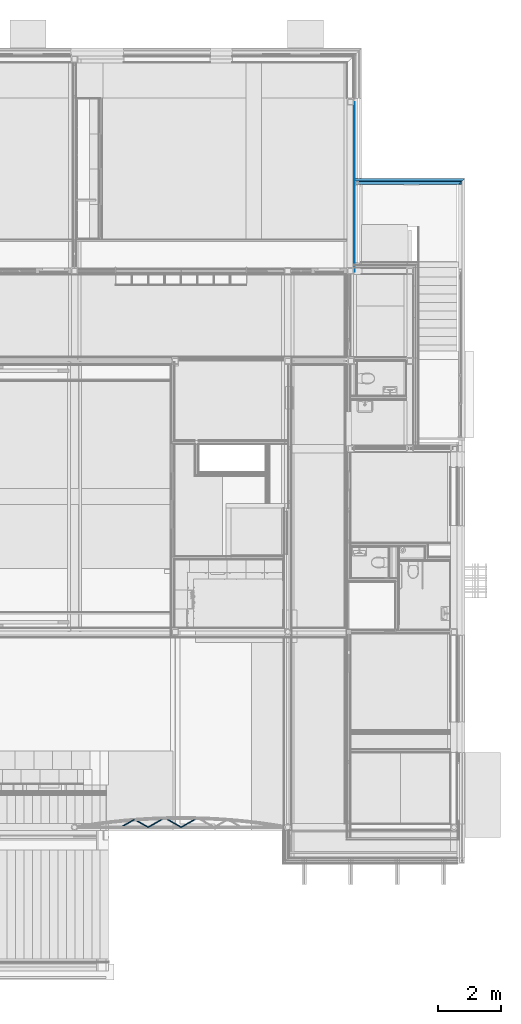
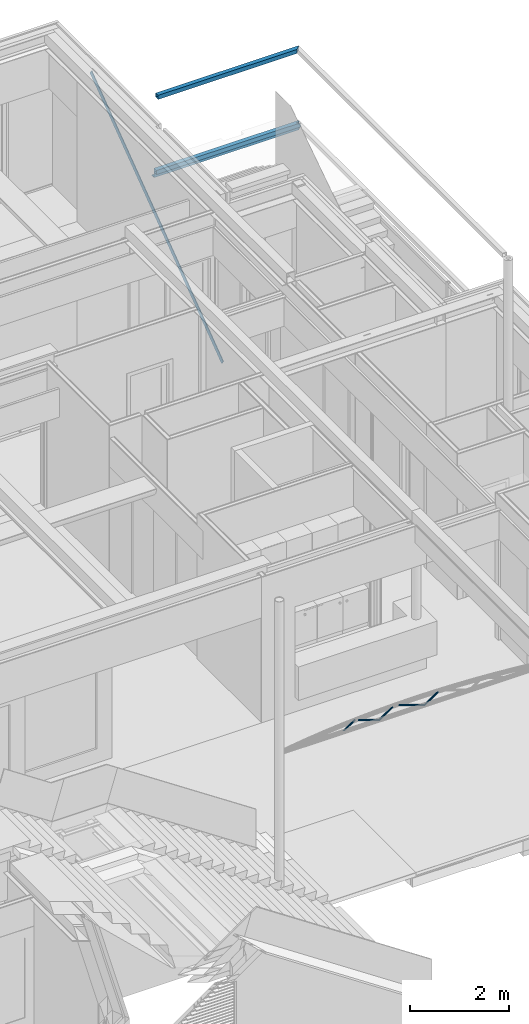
# One storey, part 16 of 165: 9 beams.
"""IFC2X3 building model written with IfcOpenShell, lengths in millimetres."""

from ifc_helpers import new_model, entity, si_unit, converted_unit, derived_unit, money_unit, direction, frame, origin_with_axes, place, context, subcontext, project, spatial, faceted_brep, material, type_object, element, save


model = new_model("IFC2X3")

# Units and contexts
model_context = context("Model", 3, precision=0.01, world=origin_with_axes(), true_north=direction((0.0, 1.0)))
body_context = subcontext(model_context, "Body", "Model", "MODEL_VIEW")
ifc_project = project(units=[si_unit("LENGTHUNIT", "METRE", prefix="MILLI"), si_unit("AREAUNIT", "SQUARE_METRE"), si_unit("VOLUMEUNIT", "CUBIC_METRE"), converted_unit("PLANEANGLEUNIT", "DEGREE", entity("IfcPlaneAngleMeasure", 0.0174532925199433), si_unit("PLANEANGLEUNIT", "RADIAN"), dimensions=[0, 0, 0, 0, 0, 0, 0]), money_unit("EUR"), converted_unit("TIMEUNIT", "Year", entity("IfcTimeMeasure", 31556926.0), si_unit("TIMEUNIT", "SECOND"), dimensions=[0, 0, 1, 0, 0, 0, 0]), si_unit("MASSUNIT", "GRAM", prefix="KILO"), si_unit("THERMODYNAMICTEMPERATUREUNIT", "DEGREE_CELSIUS"), si_unit("LUMINOUSINTENSITYUNIT", "LUMEN"), si_unit("ENERGYUNIT", "JOULE", prefix="MEGA"), derived_unit("THERMALCONDUCTANCEUNIT", [(si_unit("POWERUNIT", "WATT"), 1), (si_unit("LENGTHUNIT", "METRE"), -1), (si_unit("THERMODYNAMICTEMPERATUREUNIT", "KELVIN"), -1)]), derived_unit("SPECIFICHEATCAPACITYUNIT", [(si_unit("ENERGYUNIT", "JOULE"), 1), (si_unit("MASSUNIT", "GRAM", prefix="KILO"), -1), (si_unit("THERMODYNAMICTEMPERATUREUNIT", "KELVIN"), -1)]), derived_unit("MASSDENSITYUNIT", [(si_unit("MASSUNIT", "GRAM", prefix="KILO"), 1), (si_unit("VOLUMEUNIT", "CUBIC_METRE"), -1)])], contexts=[model_context])

# Site, building, storey
site_placement = place(None, origin_with_axes())
site = spatial("IfcSite", under=ifc_project, at=site_placement, Name="Site", CompositionType="ELEMENT")
building_placement = place(site_placement, origin_with_axes())
building = spatial("IfcBuilding", under=site, at=building_placement, Name="Naam gebouw", CompositionType="ELEMENT")
storey_placement = place(building_placement, origin_with_axes())
storey = spatial("IfcBuildingStorey", under=building, at=storey_placement, Name="Begane grond", CompositionType="ELEMENT", Elevation=0.0)

# Beams
ifc_material_1 = material(Name="Metaal - Staal C")
beam_type_1 = type_object("IfcBeamType", Name="100X100X5 100 x 100", PredefinedType="BEAM")
beam_1_placement = place(storey_placement, frame((26660.00001107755, 25124.97621976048, 2790.000013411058), z_axis=(0.0, 0.0, 1.0), x_axis=(0.0, -1.0, 0.0)))
element("IfcBeam", 1, at=beam_1_placement, inside=storey, type_object=beam_type_1, material=ifc_material_1, Name="h METAAL_Regenwaterafvoer-x", ObjectType="BEAM", context=body_context, shape_type="Brep", body=[
    faceted_brep([(-0.02363582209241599, 3304.999988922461, 49.99999999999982), (-0.02363582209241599, 3309.99998892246, 49.99999999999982), (-0.02363582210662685, 3369.999988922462, 49.99999999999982), (-0.02363582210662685, 3374.999988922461, 49.99999999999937), (-50.00000000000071, 3374.999988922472, 49.99999999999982), (-50.00000000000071, 0.0, 49.99999999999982), (50.00000000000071, 0.0, 49.99999999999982), (50.00000000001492, 3304.999988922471, 49.99999999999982), (3.14909145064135, 3309.99998892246, 44.99999999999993), (3.149091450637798, 3304.999988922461, 44.99999999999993), (3.149091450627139, 3369.999988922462, 44.99999999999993), (3.149091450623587, 3374.999988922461, 44.99999999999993), (44.99999999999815, 3374.999988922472, -44.99999999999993), (45.00000000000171, 3374.999988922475, 37.11782119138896), (50.00000000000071, 3374.999988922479, 40.29054846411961), (50.00000000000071, 3374.999988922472, -49.99999999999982), (-50.00000000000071, 3374.999988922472, -49.99999999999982), (-45.00000000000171, 3374.999988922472, 44.99999999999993), (-45.00000000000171, 3374.999988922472, -44.99999999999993), (-50.00000000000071, 0.0, -49.99999999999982), (50.00000000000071, 0.0, -49.99999999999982), (-45.00000000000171, 0.0, 44.99999999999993), (45.00000000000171, 0.0, 44.99999999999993), (45.00000000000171, 0.0, -44.99999999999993), (-45.00000000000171, 0.0, -44.99999999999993), (50.00000000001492, 3304.999988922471, 40.29054846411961), (45.00000000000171, 3304.999988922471, 37.11782119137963), (44.99999999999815, 3304.999988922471, 44.99999999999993)], [[[0, 1, 2, 3, 4, 5, 6, 7]], [[8, 1, 0, 9]], [[10, 2, 1, 8]], [[10, 11, 3, 2]], [[12, 13, 14, 15, 16, 4, 3, 11, 17, 18]], [[16, 19, 5, 4]], [[20, 6, 5, 19], [21, 22, 23, 24]], [[14, 25, 7, 6, 20, 15]], [[9, 0, 7, 25, 26, 27]], [[8, 9, 27, 22, 21, 17, 11, 10]], [[27, 26, 13, 12, 23, 22]], [[25, 14, 13, 26]], [[15, 20, 19, 16]], [[17, 21, 24, 18]], [[18, 24, 23, 12]]]),
])
beam_2_placement = place(storey_placement, frame((26700.00000000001, 25124.97621976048, 4635.000000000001), z_axis=(0.0, 0.0, 1.0), x_axis=(0.0, -1.0, 0.0)))
element("IfcBeam", 2, at=beam_2_placement, inside=storey, type_object=beam_type_1, material=ifc_material_1, Name="h METAAL_Regenwaterafvoer-x", ObjectType="BEAM", context=body_context, shape_type="Brep", body=[
    faceted_brep([(-50.00000000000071, 0.0, -49.99999999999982), (-50.00000000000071, 3349.999999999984, -49.99999999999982), (50.00000000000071, 3249.999999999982, -49.99999999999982), (50.00000000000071, 0.0, -49.99999999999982), (-50.00000000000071, 0.0, 49.99999999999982), (-50.00000000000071, 3349.999999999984, 49.99999999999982), (50.00000000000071, 3249.999999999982, 49.99999999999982), (-45.00000000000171, 3344.999999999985, 44.99999999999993), (-45.00000000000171, 3344.999999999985, -44.99999999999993), (44.99999999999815, 3254.999999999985, -44.99999999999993), (44.99999999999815, 3254.999999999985, 44.99999999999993), (50.00000000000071, 0.0, 49.99999999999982), (45.00000000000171, 0.0, -44.99999999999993), (-45.00000000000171, 0.0, -44.99999999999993), (-45.00000000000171, 0.0, 44.99999999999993), (45.00000000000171, 0.0, 44.99999999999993)], [[[0, 1, 2, 3]], [[4, 5, 1, 0]], [[2, 1, 5, 6], [7, 8, 9, 10]], [[3, 2, 6, 11]], [[4, 0, 3, 11], [12, 13, 14, 15]], [[11, 6, 5, 4]], [[13, 8, 7, 14]], [[12, 9, 8, 13]], [[15, 10, 9, 12]], [[14, 7, 10, 15]]]),
])
beam_type_2 = type_object("IfcBeamType", Name="L200X100X10 100 x 200", PredefinedType="BEAM")
beam_3_placement = place(storey_placement, frame((26660.00001107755, 25224.97621976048, 2700.000008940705), z_axis=(0.0, 0.0, 1.0), x_axis=(0.0, -1.0, 0.0)))
element("IfcBeam", 3, at=beam_3_placement, inside=storey, type_object=beam_type_2, material=ifc_material_1, Name="h METAAL_Regenwaterafvoer-x", ObjectType="BEAM", context=body_context, shape_type="Brep", body=[
    faceted_brep([(39.99999999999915, 0.0, 100.0000000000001), (50.00000000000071, 0.0, 100.0000000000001), (50.00000000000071, 3389.99998892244, 100.0000000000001), (39.99999999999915, 3399.999988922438, 100.0000000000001), (-50.00000000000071, 0.0, -100.0000000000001), (50.00000000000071, 0.0, -100.0000000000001), (39.99999999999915, 0.0, -89.99999999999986), (-50.00000000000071, 0.0, -89.99999999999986), (50.00000000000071, 3389.99998892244, -100.0000000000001), (39.99999999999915, 3399.999988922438, -89.99999999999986), (-50.00000000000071, 3489.999988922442, -100.0000000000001), (-50.00000000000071, 3489.999988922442, -89.99999999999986)], [[[0, 1, 2, 3]], [[4, 5, 1, 0, 6, 7]], [[1, 5, 8, 2]], [[9, 3, 2, 8, 10, 11]], [[6, 0, 3, 9]], [[5, 4, 10, 8]], [[7, 6, 9, 11]], [[4, 7, 11, 10]]]),
])
beam_type_3 = type_object("IfcBeamType", Name="Metaal - Staal C 15 x 120", PredefinedType="BEAM")
beam_4_placement = place(storey_placement, frame((26630.00000000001, 22324.99984707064, -230.0), z_axis=(0.0, 0.0, 1.0), x_axis=(1.0, 0.0, 0.0)))
element("IfcBeam", 4, at=beam_4_placement, inside=storey, type_object=beam_type_3, material=ifc_material_1, Name="h METAAL_Regenwaterafvoer-x", ObjectType="BEAM", context=body_context, shape_type="Brep", body=[
    faceted_brep([(0.0, -35.73954753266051, 48.19423971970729), (0.0, 5304.260605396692, 4008.194239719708), (-15.00000000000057, 5304.260605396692, 4008.194239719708), (-15.00000000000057, -35.73954753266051, 48.19423971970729), (0.0, 35.73954753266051, -48.19423971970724), (0.0, 5375.73970046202, 3911.805760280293), (-15.00000000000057, 5375.73970046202, 3911.805760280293), (-15.00000000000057, 35.73954753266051, -48.19423971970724)], [[[0, 1, 2, 3]], [[4, 5, 1, 0]], [[2, 1, 5, 6]], [[3, 2, 6, 7]], [[4, 0, 3, 7]], [[7, 6, 5, 4]]]),
])
ifc_material_2 = material(Name="h2_staal_gen")
beam_type_4 = type_object("IfcBeamType", Name="balk_gen_ø42,4*5 windligger 42 x 42", PredefinedType="BEAM")
beam_5_placement = place(storey_placement, frame((19175.35011460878, 4579.999999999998, 3994.999990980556), z_axis=(0.0, 0.0, 1.0), x_axis=(0.4999999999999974, -0.8660254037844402, 0.0)))
element("IfcBeam", 5, at=beam_5_placement, inside=storey, type_object=beam_type_4, material=ifc_material_2, Name="_Regenwaterafvoer-x", ObjectType="BEAM", context=body_context, shape_type="Brep", body=[
    faceted_brep([(21.2000004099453, 498.1858471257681, -8.389289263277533e-09), (19.85862618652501, 497.4112557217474, 5.006075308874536), (15.40711556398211, 494.8406816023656, 5.006075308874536), (15.40711556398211, 494.8406816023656, -5.006075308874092), (19.85862619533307, 497.4112557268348, -5.006075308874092), (18.3597385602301, 503.7351303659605, 10.60000000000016), (18.35973827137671, 501.2388933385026, 10.60000000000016), (21.20000000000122, 503.7351303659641, 0.0), (15.85366325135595, 501.8942778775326, 13.10607530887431), (9.522121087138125, 498.2380587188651, 13.10607530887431), (15.40711556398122, 503.7351303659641, 5.006075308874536), (15.40711556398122, 503.7351303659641, -5.006075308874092), (18.35973815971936, 501.2388932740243, -10.60000000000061), (9.522121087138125, 498.2380587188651, -13.10607530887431), (15.85366325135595, 501.8942778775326, -13.10607530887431), (18.3597385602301, 503.7351303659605, -10.60000000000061), (15.23520368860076, 503.7351303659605, 13.7245348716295), (0.0, 503.7351303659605, 16.19999999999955), (15.23520368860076, 503.7351303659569, -13.7245348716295), (0.0, 503.7351303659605, -16.19999999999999), (9.522121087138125, 503.7351303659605, -13.10607530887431), (9.522121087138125, 503.7351303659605, 13.10607530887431)], [[[0, 1, 2, 3, 4]], [[5, 6, 1, 0, 7]], [[6, 8, 9, 2, 1]], [[10, 11, 3, 2]], [[12, 4, 3, 13, 14]], [[7, 0, 4, 12, 15]], [[5, 16, 8, 6]], [[17, 16, 5, 7, 15, 18, 19, 20, 11, 10, 21]], [[8, 16, 17, 9]], [[21, 10, 2, 9]], [[11, 20, 13, 3]], [[18, 14, 13, 19]], [[18, 15, 12, 14]], [[13, 20, 19]], [[17, 21, 9]]]),
    faceted_brep([(15.40711556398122, 113.5943663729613, -5.006075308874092), (15.40711556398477, 115.5859069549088, 0.0), (15.40711556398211, 113.5943663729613, 5.006075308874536), (15.40711556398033, 489.7002734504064, 5.006075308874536), (15.40711556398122, 488.1513140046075, -7.0977312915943e-07), (15.40711556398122, 489.7002732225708, -5.006075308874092), (11.94945999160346, 102.8299622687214, -17.01027856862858), (18.35973856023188, 116.4830578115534, -10.60000000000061), (21.19999999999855, 125.6194771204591, 0.0), (9.522121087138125, 100.1788765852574, -13.10607530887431), (0.0, 82.45523929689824, -16.19999999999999), (-9.522121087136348, 67.1932815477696, -13.10607530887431), (-15.40711556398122, 60.22255246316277, -5.006075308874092), (-15.40711556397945, 62.21409304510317, 0.0), (-21.20000038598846, 52.18052221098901, 0.0), (-18.35973849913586, 52.88305791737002, -10.60000000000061), (-11.94945996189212, 61.4358186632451, -17.01027856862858), (18.3597385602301, 116.4830578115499, 10.60000000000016), (11.9494599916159, 102.8299622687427, 17.01027856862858), (-11.94945996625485, 61.43581865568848, 17.01027856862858), (-18.35973852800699, 52.88305786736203, 10.60000000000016), (-15.40711556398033, 60.22255246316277, 5.006075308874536), (-9.522121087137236, 67.19328154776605, 13.10607530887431), (0.0, 82.4552392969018, 16.19999999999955), (9.522121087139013, 100.1788765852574, 13.10607530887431), (9.522121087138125, 490.9266727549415, 13.10607530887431), (11.34289137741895, 489.0841913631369, 10.60000000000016), (21.20000023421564, 491.4964794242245, -7.004725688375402e-07), (18.35973856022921, 493.1361474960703, 10.60000000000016), (18.3597385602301, 493.1361474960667, -10.60000000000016), (11.34289137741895, 489.0841913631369, -10.60000000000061), (9.522121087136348, 490.926672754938, -13.10607530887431), (10.60000000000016, 98.6892683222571, -18.35973856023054), (10.60000000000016, 497.6158047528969, -18.3597385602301), (0.0, 489.0007463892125, -16.19999999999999), (-9.522121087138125, 479.929364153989, -13.10607530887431), (-15.40711556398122, 471.9062541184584, -5.006075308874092), (-11.34289137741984, 475.9840348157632, -10.59999999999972), (-15.40711556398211, 470.3572949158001, -7.59247775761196e-07), (-15.40711556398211, 471.9062543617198, 5.006075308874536), (-18.35973834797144, 471.9320787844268, -10.60000000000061), (-21.20000005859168, 467.0121295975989, -7.685483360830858e-07), (-10.60000000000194, 61.96979120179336, -18.35973856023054), (-10.60000000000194, 485.3736299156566, -18.3597385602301), (0.0, 76.53392572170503, -21.20000000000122), (10.60000000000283, 98.68926832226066, 18.35973856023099), (10.60000000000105, 497.6158047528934, 18.3597385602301), (0.0, 76.53392572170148, 21.20000000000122), (-10.60000000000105, 61.96979120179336, 18.35973856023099), (-10.60000000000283, 485.3736299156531, 18.3597385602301), (-18.35973844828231, 471.9320788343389, 10.60000000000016), (-9.522121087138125, 479.929364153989, 13.10607530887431), (-11.34289137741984, 475.9840348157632, 10.60000000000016), (0.0, 489.0007463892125, 16.19999999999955), (0.0, 503.7351303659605, -21.20000000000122), (0.0, 503.7351303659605, 21.20000000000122)], [[[0, 1, 2, 3, 4, 5]], [[6, 7, 8, 1, 0, 9, 10, 11, 12, 13, 14, 15, 16]], [[1, 8, 17, 18, 19, 20, 14, 13, 21, 22, 23, 24, 2]], [[3, 2, 24, 25, 26]], [[27, 4, 3, 26, 28]], [[27, 29, 30, 5, 4]], [[31, 9, 0, 5, 30]], [[7, 6, 32, 33, 29]], [[27, 8, 7, 29]], [[34, 10, 9, 31]], [[35, 11, 10, 34]], [[36, 12, 11, 35, 37]], [[21, 13, 12, 36, 38, 39]], [[40, 15, 14, 41]], [[42, 16, 15, 40, 43]], [[44, 32, 6, 16, 42]], [[28, 17, 8, 27]], [[45, 18, 17, 28, 46]], [[19, 18, 45, 47, 48]], [[20, 19, 48, 49, 50]], [[41, 14, 20, 50]], [[51, 22, 21, 39, 52]], [[53, 23, 22, 51]], [[25, 24, 23, 53]], [[53, 51, 52, 50, 49, 46, 28, 26, 25]], [[43, 40, 37, 35, 34, 31, 30, 29, 33]], [[33, 32, 44, 54]], [[36, 37, 40, 41, 38]], [[39, 38, 41, 50, 52]], [[54, 44, 42, 43]], [[55, 47, 45, 46]], [[49, 48, 47, 55]], [[49, 55, 46]], [[33, 54, 43]]]),
    faceted_brep([(-15.40711556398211, 477.0466625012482, 5.006075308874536), (-19.85862618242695, 474.4760883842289, 5.006075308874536), (-21.2000002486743, 473.7014970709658, -4.0106140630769e-08), (-19.85862619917, 474.4760883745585, -5.006075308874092), (-15.40711556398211, 477.0466625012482, -5.006075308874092), (-15.85366325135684, 483.5845309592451, 13.10607530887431), (-18.35973844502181, 480.0348247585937, 10.60000000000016), (-9.522121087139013, 487.2407501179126, 13.10607530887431), (-18.3597385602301, 503.7351303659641, 10.60000000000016), (-21.20000000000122, 503.7351303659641, 0.0), (-18.3597385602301, 503.7351303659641, -10.60000000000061), (-18.35973834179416, 480.0348248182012, -10.60000000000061), (-15.85366325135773, 483.5845309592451, -13.10607530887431), (-9.522121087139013, 487.2407501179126, -13.10607530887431), (-15.40711556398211, 503.7351303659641, -5.006075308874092), (-15.40711556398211, 503.7351303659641, 5.006075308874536), (-15.2352036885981, 503.7351303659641, 13.72453487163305), (-12.7597385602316, 496.3668779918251, 16.19999999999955), (-9.522121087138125, 503.7351303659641, 13.10607530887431), (0.0, 503.7351303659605, 16.19999999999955), (-9.522121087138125, 503.7351303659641, -13.10607530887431), (0.0, 503.7351303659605, -16.19999999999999), (-15.2352036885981, 503.7351303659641, -13.72453487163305), (-12.7597385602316, 496.3668779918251, -16.19999999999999)], [[[0, 1, 2, 3, 4]], [[5, 6, 1, 0, 7]], [[8, 9, 2, 1, 6]], [[10, 11, 3, 2, 9]], [[12, 13, 4, 3, 11]], [[14, 15, 0, 4]], [[16, 8, 6, 5, 17]], [[15, 18, 7, 0]], [[19, 17, 5, 7]], [[15, 14, 20, 21, 22, 10, 9, 8, 16, 19, 18]], [[22, 23, 12, 11, 10]], [[23, 21, 13, 12]], [[20, 14, 4, 13]], [[17, 19, 16]], [[18, 19, 7]], [[21, 20, 13]], [[23, 22, 21]]]),
])
beam_6_placement = place(storey_placement, frame((19629.87186108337, 4821.318902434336, 3994.999990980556), z_axis=(0.0, 0.0, 1.0), x_axis=(-0.4999280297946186, -0.8660669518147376, 0.0)))
element("IfcBeam", 6, at=beam_6_placement, inside=storey, type_object=beam_type_4, material=ifc_material_2, Name="_Regenwaterafvoer-x", ObjectType="BEAM", context=body_context, shape_type="Brep", body=[
    faceted_brep([(-15.40711556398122, 98.26170130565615, 5.006075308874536), (-15.407115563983, 100.0146480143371, 0.0), (-15.40711556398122, 98.26170130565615, -5.006075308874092), (-15.40711556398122, 473.7996225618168, -5.006075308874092), (-15.40711556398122, 473.7996225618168, 5.006075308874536), (-11.94945999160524, 89.0488583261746, 17.01027856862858), (-18.35973856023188, 100.5806313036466, 10.60000000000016), (-21.20000019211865, 108.4073010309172, 0.0), (-9.52212108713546, 86.89927342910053, 13.10607530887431), (0.0, 72.02037234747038, 16.19999999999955), (9.522121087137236, 59.30823255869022, 13.10607530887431), (15.40711556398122, 53.618459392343, 5.006075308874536), (15.407115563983, 55.37140610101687, 0.0), (21.19999979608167, 46.97875365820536, 0.0), (18.35973856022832, 47.38194874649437, 10.60000000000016), (11.94945999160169, 54.42442580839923, 17.01027856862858), (-18.35973856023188, 100.5806313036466, -10.60000000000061), (-11.94945999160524, 89.0488583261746, -17.01027856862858), (11.94945999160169, 54.42442580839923, -17.01027856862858), (18.35973856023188, 47.38194874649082, -10.60000000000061), (15.40711556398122, 53.61845939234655, -5.006075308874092), (9.522121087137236, 59.30823255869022, -13.10607530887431), (0.0, 72.02037234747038, -16.19999999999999), (-9.52212108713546, 86.89927342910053, -13.10607530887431), (-9.522121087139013, 477.1969996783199, -13.10607530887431), (21.20000000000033, 494.9327225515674, 0.0), (18.3597385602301, 493.2930541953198, -10.60000000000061), (10.60000000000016, 488.8133969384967, -18.35973856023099), (0.0, 482.6940713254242, -21.20000000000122), (-10.60000000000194, 476.5747457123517, -18.35973856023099), (-18.35973856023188, 472.0950884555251, -10.60000000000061), (-21.20000000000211, 470.455420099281, 0.0), (-18.35973856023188, 472.0950884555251, 10.60000000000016), (-10.60000000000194, 476.5747457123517, 18.35973856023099), (0.0, 482.6940713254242, 21.20000000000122), (10.60000000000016, 488.8133969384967, 18.35973856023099), (18.3597385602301, 493.2930541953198, 10.60000000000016), (0.0, 482.6940713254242, -16.19999999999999), (9.522121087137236, 488.191142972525, -13.10607530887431), (15.40711556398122, 491.588520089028, -5.006075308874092), (15.40711556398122, 491.588520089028, 5.006075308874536), (9.522121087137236, 488.191142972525, 13.10607530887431), (0.0, 482.6940713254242, 16.19999999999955), (-9.522121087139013, 477.1969996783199, 13.10607530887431), (-10.60000000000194, 85.50646746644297, 18.35973856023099), (10.60000000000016, 54.79219377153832, 18.35973856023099), (0.0, 66.80845387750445, 21.20000000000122), (-10.60000000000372, 85.5064674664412, -18.35973856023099), (0.0, 66.80845387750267, -21.20000000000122), (10.60000000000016, 54.79219377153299, -18.35973856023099)], [[[0, 1, 2, 3, 4]], [[5, 6, 7, 1, 0, 8, 9, 10, 11, 12, 13, 14, 15]], [[1, 7, 16, 17, 18, 19, 13, 12, 20, 21, 22, 23, 2]], [[3, 2, 23, 24]], [[25, 26, 27, 28, 29, 30, 31, 32, 33, 34, 35, 36], [4, 3, 24, 37, 38, 39, 40, 41, 42, 43]], [[43, 8, 0, 4]], [[6, 5, 44, 33, 32]], [[31, 7, 6, 32]], [[42, 9, 8, 43]], [[41, 10, 9, 42]], [[40, 11, 10, 41]], [[20, 12, 11, 40, 39]], [[36, 14, 13, 25]], [[45, 15, 14, 36, 35]], [[46, 44, 5, 15, 45]], [[30, 16, 7, 31]], [[47, 17, 16, 30, 29]], [[18, 17, 47, 48, 49]], [[19, 18, 49, 27, 26]], [[25, 13, 19, 26]], [[38, 21, 20, 39]], [[37, 22, 21, 38]], [[24, 23, 22, 37]], [[27, 49, 48, 28]], [[28, 48, 47, 29]], [[33, 44, 46, 34]], [[34, 46, 45, 35]]]),
])
beam_7_placement = place(storey_placement, frame((20047.91724409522, 4580.006606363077, 3994.999990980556), z_axis=(0.0, 0.0, 1.0), x_axis=(0.4999999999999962, -0.8660254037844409, 0.0)))
element("IfcBeam", 7, at=beam_7_placement, inside=storey, type_object=beam_type_4, material=ifc_material_2, Name="_Regenwaterafvoer-x", ObjectType="BEAM", context=body_context, shape_type="Brep", body=[
    faceted_brep([(9.522121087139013, -5.497071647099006, 13.10607530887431), (9.522121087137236, 507.176093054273, 13.10607530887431), (15.40711556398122, 514.8226851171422, 5.006075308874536), (15.40711556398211, -8.894448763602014, 5.006075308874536), (0.0, 0.0, 16.19999999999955), (0.0, 490.5574386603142, 16.19999999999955), (11.94945999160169, 513.4027323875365, 17.01027856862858), (18.35973856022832, 522.7550905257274, 10.60000000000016), (21.20000021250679, 523.6079786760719, 0.0), (15.40711556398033, 512.6995808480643, 0.0), (-9.522121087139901, 471.3144830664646, 13.10607530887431), (-15.40711556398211, 456.7973812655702, 5.006075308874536), (-15.40711556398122, 454.6742769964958, 0.0), (-21.19999979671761, 443.7658799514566, 0.0), (-18.35973856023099, 453.6098047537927, 10.60000000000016), (-11.94945999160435, 468.3994321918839, 17.01027856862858), (15.40711556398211, 514.8226851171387, -5.006075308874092), (15.40711556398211, -8.894448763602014, -5.006075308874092), (-18.35973856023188, 10.59898286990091, 10.60000000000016), (-21.20000000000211, 12.23865122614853, 0.0), (-18.35973856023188, 10.59898286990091, -10.60000000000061), (-10.60000000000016, 6.119325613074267, -18.35973856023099), (0.0, 0.0, -21.20000000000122), (10.60000000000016, -6.119325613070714, -18.35973856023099), (18.35973856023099, -10.5989828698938, -10.60000000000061), (21.20000000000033, -12.23865122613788, 0.0), (18.35973856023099, -10.5989828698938, 10.60000000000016), (10.60000000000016, -6.119325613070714, 18.35973856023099), (0.0, 0.0, 21.20000000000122), (-10.60000000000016, 6.119325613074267, 18.35973856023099), (9.522121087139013, -5.497071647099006, -13.10607530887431), (0.0, 0.0, -16.19999999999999), (-9.522121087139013, 5.497071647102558, -13.10607530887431), (-15.407115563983, 8.89444876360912, -5.006075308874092), (-15.407115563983, 8.89444876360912, 5.006075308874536), (-9.522121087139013, 5.497071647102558, 13.10607530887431), (10.60000000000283, 512.7840999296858, 18.35973856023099), (18.35973856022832, 522.7550905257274, -10.60000000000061), (11.94945999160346, 513.4027323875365, -17.01027856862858), (-11.94945999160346, 468.3994321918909, -17.01027856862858), (-18.35973856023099, 453.6098047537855, -10.60000000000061), (-15.40711556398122, 456.7973812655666, -5.006075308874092), (-9.522121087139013, 471.3144830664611, -13.10607530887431), (0.0, 490.5574386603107, -16.19999999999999), (9.522121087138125, 507.1760930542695, -13.10607530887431), (-10.60000000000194, 472.8630505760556, 18.35973856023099), (0.0, 496.8699216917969, 21.20000000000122), (-10.60000000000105, 472.8630505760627, -18.35973856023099), (0.0, 496.8699216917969, -21.20000000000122), (10.60000000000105, 512.7840999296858, -18.35973856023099)], [[[0, 1, 2, 3]], [[4, 5, 1, 0]], [[6, 7, 8, 9, 2, 1, 5, 10, 11, 12, 13, 14, 15]], [[2, 9, 16, 17, 3]], [[18, 19, 20, 21, 22, 23, 24, 25, 26, 27, 28, 29], [0, 3, 17, 30, 31, 32, 33, 34, 35, 4]], [[35, 10, 5, 4]], [[7, 6, 36, 27, 26]], [[25, 8, 7, 26]], [[9, 8, 37, 38, 39, 40, 13, 12, 41, 42, 43, 44, 16]], [[34, 11, 10, 35]], [[41, 12, 11, 34, 33]], [[18, 14, 13, 19]], [[45, 15, 14, 18, 29]], [[46, 36, 6, 15, 45]], [[17, 16, 44, 30]], [[19, 13, 40, 20]], [[40, 39, 47, 21, 20]], [[21, 47, 48, 22]], [[22, 48, 49, 23]], [[49, 38, 37, 24, 23]], [[24, 37, 8, 25]], [[27, 36, 46, 28]], [[28, 46, 45, 29]], [[30, 44, 43, 31]], [[31, 43, 42, 32]], [[32, 42, 41, 33]], [[39, 38, 49, 48, 47]]]),
])
beam_8_placement = place(storey_placement, frame((20597.65182828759, 4870.017791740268, 3994.999990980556), z_axis=(0.0, 0.0, 1.0), x_axis=(-0.4999836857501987, -0.8660348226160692, 0.0)))
element("IfcBeam", 8, at=beam_8_placement, inside=storey, type_object=beam_type_4, material=ifc_material_2, Name="_Regenwaterafvoer-x", ObjectType="BEAM", context=body_context, shape_type="Brep", body=[
    faceted_brep([(-15.40711556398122, 107.8042604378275, 5.006075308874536), (-15.40711556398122, 109.7527563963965, 0.0), (-15.40711556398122, 107.804260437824, -5.006075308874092), (-15.40711556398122, 571.1463812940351, -5.006075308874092), (-15.40711556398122, 571.1463812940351, 5.006075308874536), (-11.94945999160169, 97.31630249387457, 17.01027856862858), (-18.35973856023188, 110.5931249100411, 10.60000000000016), (-21.20000020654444, 119.4961038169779, 0.0), (-9.522121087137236, 94.75325611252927, 13.10607530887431), (0.0, 77.53327944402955, 16.19999999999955), (9.522121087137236, 62.72177623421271, 13.10607530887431), (15.40711556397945, 55.97623728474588, 5.006075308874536), (15.40711556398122, 57.92473324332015, 0.0), (21.19999978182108, 48.18138653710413, 0.0), (18.3597385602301, 48.83276806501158, 10.60000000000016), (11.94945999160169, 57.11949300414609, 17.01027856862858), (-18.35973856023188, 110.5931249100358, -10.60000000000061), (-11.94945999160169, 97.31630249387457, -17.01027856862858), (11.94945999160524, 57.11949300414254, -17.01027856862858), (18.3597385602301, 48.8327680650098, -10.60000000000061), (15.40711556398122, 55.97623728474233, -5.006075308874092), (9.522121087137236, 62.72177623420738, -13.10607530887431), (0.0, 77.53327944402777, -16.19999999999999), (-9.522121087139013, 94.75325611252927, -13.10607530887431), (-9.522121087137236, 574.54393662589, -13.10607530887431), (21.20000000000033, 592.2805898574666, 0.0), (18.35973856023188, 590.6408354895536, -10.60000000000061), (10.60000000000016, 586.1609432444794, -18.35973856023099), (0.0, 580.0412966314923, -21.20000000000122), (-10.60000000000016, 573.9216500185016, -18.35973856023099), (-18.35973856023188, 569.4417577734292, -10.60000000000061), (-21.20000000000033, 567.8020034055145, 0.0), (-18.35973856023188, 569.4417577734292, 10.60000000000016), (-10.60000000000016, 573.9216500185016, 18.35973856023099), (0.0, 580.0412966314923, 21.20000000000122), (10.60000000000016, 586.1609432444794, 18.35973856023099), (18.35973856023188, 590.6408354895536, 10.60000000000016), (0.0, 580.0412966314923, -16.19999999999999), (9.522121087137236, 585.538656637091, -13.10607530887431), (15.40711556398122, 588.9362119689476, -5.006075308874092), (15.40711556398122, 588.9362119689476, 5.006075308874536), (9.522121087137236, 585.538656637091, 13.10607530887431), (0.0, 580.0412966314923, 16.19999999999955), (-9.522121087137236, 574.54393662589, 13.10607530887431), (-10.60000000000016, 93.28219374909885, 18.35973856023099), (10.59999999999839, 57.62483509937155, 18.35973856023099), (0.0, 71.73994755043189, 21.20000000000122), (-10.60000000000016, 93.28219374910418, -18.35973856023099), (0.0, 71.73994755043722, -21.20000000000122), (10.60000000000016, 57.62483509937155, -18.35973856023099)], [[[0, 1, 2, 3, 4]], [[5, 6, 7, 1, 0, 8, 9, 10, 11, 12, 13, 14, 15]], [[1, 7, 16, 17, 18, 19, 13, 12, 20, 21, 22, 23, 2]], [[3, 2, 23, 24]], [[25, 26, 27, 28, 29, 30, 31, 32, 33, 34, 35, 36], [4, 3, 24, 37, 38, 39, 40, 41, 42, 43]], [[43, 8, 0, 4]], [[6, 5, 44, 33, 32]], [[31, 7, 6, 32]], [[42, 9, 8, 43]], [[41, 10, 9, 42]], [[40, 11, 10, 41]], [[20, 12, 11, 40, 39]], [[36, 14, 13, 25]], [[45, 15, 14, 36, 35]], [[46, 44, 5, 15, 45]], [[30, 16, 7, 31]], [[47, 17, 16, 30, 29]], [[18, 17, 47, 48, 49]], [[19, 18, 49, 27, 26]], [[25, 13, 19, 26]], [[38, 21, 20, 39]], [[37, 22, 21, 38]], [[24, 23, 22, 37]], [[27, 49, 48, 28]], [[28, 48, 47, 29]], [[33, 44, 46, 34]], [[34, 46, 45, 35]]]),
])
beam_9_placement = place(storey_placement, frame((21099.98778972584, 4580.00660636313, 3994.999990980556), z_axis=(0.0, 0.0, 1.0), x_axis=(0.4999836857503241, -0.8660348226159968, 0.0)))
element("IfcBeam", 9, at=beam_9_placement, inside=storey, type_object=beam_type_4, material=ifc_material_2, Name="_Regenwaterafvoer-x", ObjectType="BEAM", context=body_context, shape_type="Brep", body=[
    faceted_brep([(9.522121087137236, -5.497360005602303, 13.10607530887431), (9.522121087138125, 516.9905666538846, 13.10607530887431), (15.407115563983, 523.4091674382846, 5.006075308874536), (15.40711556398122, -8.894915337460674, 5.006075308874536), (0.0, 0.0, 16.19999999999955), (0.0, 502.8314838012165, 16.19999999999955), (11.94946032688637, 522.3686872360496, 17.01027856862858), (18.35973885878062, 530.2695496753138, 10.60000000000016), (21.20000036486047, 530.8456210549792, 0.0), (15.40711556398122, 521.5223831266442, 0.0), (-9.522121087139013, 486.3402072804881, 13.10607530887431), (-10.7516624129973, 483.7235145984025, 11.41375685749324), (-11.70386127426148, 484.3003408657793, 17.01027856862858), (15.40711556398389, 523.4091674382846, -5.006075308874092), (15.40711556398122, -8.894915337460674, -5.006075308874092), (-18.35973856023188, 10.59953885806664, 10.60000000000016), (-21.20000000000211, 12.23929322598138, 0.0), (-18.35973856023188, 10.59953885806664, -10.60000000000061), (-10.60000000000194, 6.119646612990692, -18.35973856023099), (0.0, 0.0, -21.20000000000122), (10.60000000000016, -6.119646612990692, -18.35973856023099), (18.35973856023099, -10.59953885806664, -10.60000000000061), (21.20000000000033, -12.23929322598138, 0.0), (18.35973856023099, -10.59953885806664, 10.60000000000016), (10.60000000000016, -6.119646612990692, 18.35973856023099), (0.0, 0.0, 21.20000000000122), (-10.60000000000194, 6.119646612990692, 18.35973856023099), (9.522121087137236, -5.497360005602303, -13.10607530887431), (0.0, 0.0, -16.19999999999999), (-9.522121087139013, 5.497360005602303, -13.10607530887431), (-15.40711556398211, 8.894915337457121, -5.006075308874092), (-15.40711556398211, 8.894915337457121, 5.006075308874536), (-9.522121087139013, 5.497360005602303, 13.10607530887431), (10.60000003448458, 521.9053292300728, 18.35973856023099), (18.3597385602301, 530.26954919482, -10.60000000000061), (11.94945999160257, 522.3686866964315, -17.01027856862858), (-11.70386127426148, 484.3003408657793, -17.01027856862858), (-10.7516624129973, 483.7235145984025, -11.41375685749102), (-9.522121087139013, 486.3402072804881, -13.10607530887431), (0.0, 502.8314838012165, -16.19999999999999), (9.522121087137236, 516.9905666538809, -13.10607530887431), (-15.407115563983, 473.3319278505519, 5.006075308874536), (-15.40711556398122, 471.3734075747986, 0.0), (-21.19999965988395, 461.5622773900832, 0.0), (-18.35973828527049, 470.519716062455, 10.60000000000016), (-11.94945995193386, 483.8843821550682, 17.01027856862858), (0.0, 508.4413326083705, 21.20000000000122), (-11.79318013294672, 484.3544487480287, 17.1665583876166), (-10.5999999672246, 487.7854302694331, 18.35973856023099), (-18.35973856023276, 470.5197155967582, -10.60000000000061), (-11.94945999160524, 483.8843820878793, -17.01027856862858), (-11.79318014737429, 484.3544487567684, -17.16655841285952), (-10.60000000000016, 487.7854302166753, -18.35973856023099), (0.0, 508.441332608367, -21.20000000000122), (10.60000000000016, 521.9053291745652, -18.35973856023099), (-15.40711556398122, 473.3319278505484, -5.006075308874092)], [[[0, 1, 2, 3]], [[4, 5, 1, 0]], [[6, 7, 8, 9, 2, 1, 5, 10, 11, 12]], [[2, 9, 13, 14, 3]], [[15, 16, 17, 18, 19, 20, 21, 22, 23, 24, 25, 26], [0, 3, 14, 27, 28, 29, 30, 31, 32, 4]], [[32, 10, 5, 4]], [[7, 6, 33, 24, 23]], [[22, 8, 7, 23]], [[9, 8, 34, 35, 36, 37, 38, 39, 40, 13]], [[41, 11, 10, 32, 31]], [[12, 11, 41, 42, 43, 44, 45]], [[46, 33, 6, 12, 47, 48]], [[14, 13, 40, 27]], [[15, 44, 43, 16]], [[16, 43, 49, 17]], [[50, 51, 52, 18, 17, 49]], [[18, 52, 53, 19]], [[19, 53, 54, 20]], [[54, 35, 34, 21, 20]], [[21, 34, 8, 22]], [[24, 33, 46, 25]], [[25, 46, 48, 26]], [[47, 45, 44, 15, 26, 48]], [[27, 40, 39, 28]], [[28, 39, 38, 29]], [[38, 37, 55, 30, 29]], [[55, 42, 41, 31, 30]], [[36, 35, 54, 53, 52, 51]], [[42, 55, 37, 36, 50, 49, 43]], [[12, 45, 47]], [[36, 51, 50]]]),
])

save(model, "model.ifc")
